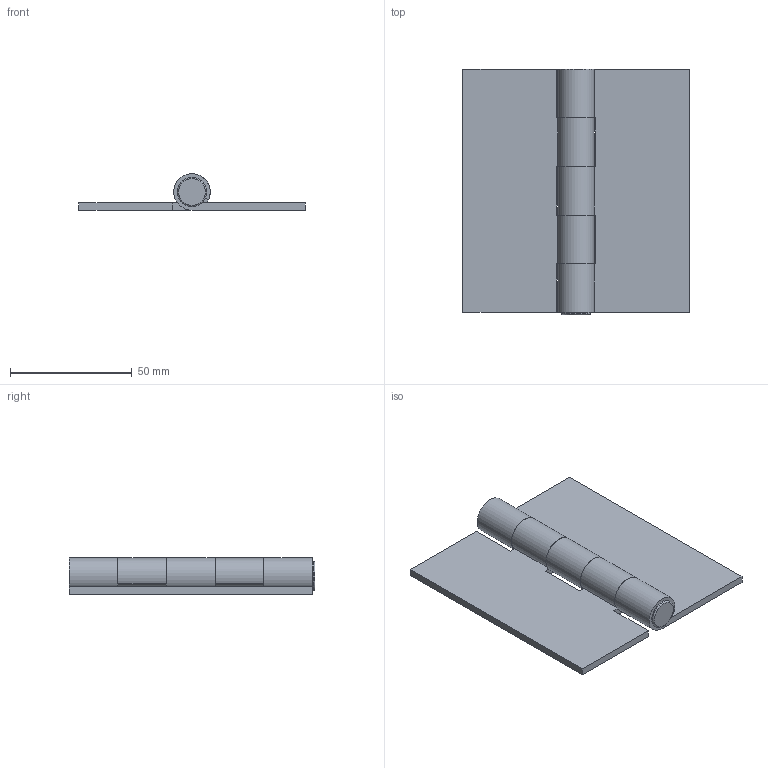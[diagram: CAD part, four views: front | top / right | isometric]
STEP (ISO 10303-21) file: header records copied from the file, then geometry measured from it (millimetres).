
FILE_DESCRIPTION(/* description */ (''),/* implementation_level */ '2;1');
FILE_NAME(/* name */ '\\NAS\db20\HTN10093-30\DR_HTN10093-30.stp',/* time_stamp */ '2017-08-23T08:14:18+09:00',/* author */ ('user'),/* organization */ (''),/* preprocessor_version */ 'ST-DEVELOPER v15.6',/* originating_system */ 'Autodesk Inventor 2015',/* authorisation */ '');
FILE_SCHEMA (('AUTOMOTIVE_DESIGN { 1 0 10303 214 3 1 1 }'));
Length unit declared in the file: millimetre
Products named in the file (3): DR_HTN10093-30-P1; DR_HTN10093-30-P2; DR_HTN10093-30
Bounding box: 93 x 101 x 14.99 mm (x, y, z)
Volume: 41239.1 mm3; surface area: 29084.2 mm2
Topology: 3 solids, 3 shells, 45 faces, 112 edges, 74 vertices
Faces by surface type: plane 31, cylinder 12, torus 2
Full cylindrical faces by diameter (mm): 9 x1, 12 x1
Entity records: 1387 total; most frequent: DIRECTION 234, CARTESIAN_POINT 232, ORIENTED_EDGE 216, EDGE_CURVE 108, LINE 82, VECTOR 82, AXIS2_PLACEMENT_3D 76, VERTEX_POINT 74
